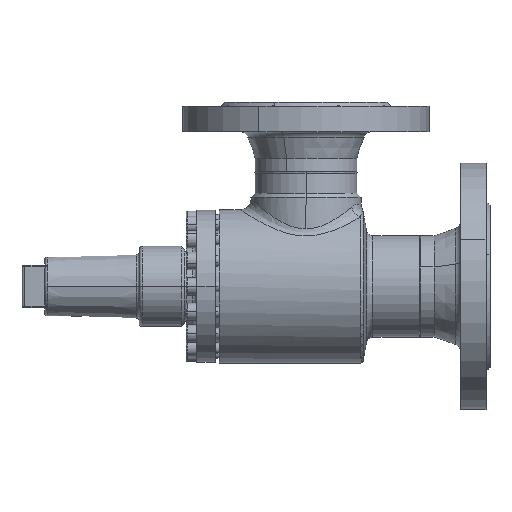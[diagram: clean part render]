
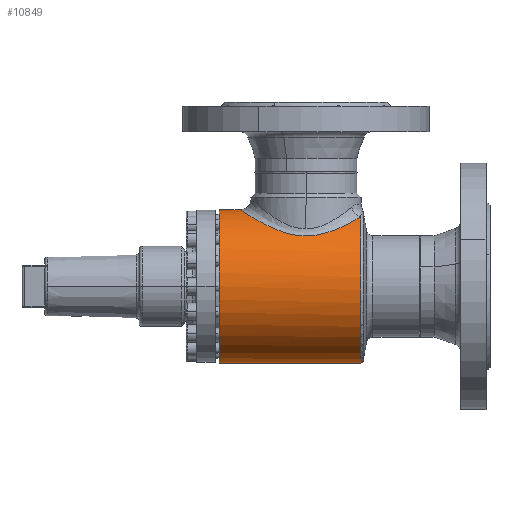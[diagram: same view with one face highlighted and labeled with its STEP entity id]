
A CAD part, left-side view. The second image highlights one B-rep face of the part: STEP entity #10849.
In plain terms, the highlighted cylindrical face has radius 57.5 mm (diameter 115 mm), a partial arc.
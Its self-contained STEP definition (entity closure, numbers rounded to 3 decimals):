
#16791 = ORIENTED_EDGE ( 'NONE', *, *, #874, .F. ) ;
#16900 = EDGE_CURVE ( 'NONE', #4653, #2881, #12067, .T. ) ;
#874 = EDGE_CURVE ( 'NONE', #14631, #4653, #17431, .T. ) ;
#17431 = LINE ( 'NONE', #17432, #17433 ) ;
#17432 = CARTESIAN_POINT ( 'NONE',  ( 0., -111., -57.5 ) ) ;
#17433 = VECTOR ( 'NONE', #17434, 1000. ) ;
#17434 = DIRECTION ( 'NONE',  ( 0., 1., 0. ) ) ;
#17473 = B_SPLINE_CURVE_WITH_KNOTS ( 'NONE', 3,
 ( #17474, #17475, #17476, #17477, #17478, #17479, #17480, #17481, #17482, #17483, #17484, #17485, #17486, #17487, #17488, #17489, #17490, #17491, #17493, #17494, #17495, #17496, #17497, #17498, #17499, #17500, #17501, #17502, #17503, #17504, #17505, #17506, #17507, #17508, #17511, #17512, #17513, #17514, #17515, #17516, #17517, #17518, #17519, #17520, #17521, #17522, #17523, #17524, #17525, #17526, #17529, #17530, #17531, #17532, #17533, #17534, #17535, #17536, #17537, #17538, #17539, #17540 ),
 .UNSPECIFIED., .F., .F.,
 ( 4, 2, 2, 2, 2, 2, 2, 2, 2, 2, 2, 2, 2, 2, 2, 2, 2, 2, 2, 2, 2, 2, 2, 2, 2, 2, 2, 2, 2, 2, 4 ),
 ( 0., 0.008, 0.016, 0.017, 0.019, 0.023, 0.031, 0.035, 0.039, 0.047, 0.049, 0.05, 0.054, 0.058, 0.06, 0.062, 0.07, 0.074, 0.078, 0.085, 0.089, 0.091, 0.093, 0.101, 0.105, 0.107, 0.109, 0.116, 0.118, 0.12, 0.124 ),
 .UNSPECIFIED. ) ;
#17474 = CARTESIAN_POINT ( 'NONE',  ( -24.174, -105.892, 52.171 ) ) ;
#17475 = CARTESIAN_POINT ( 'NONE',  ( -26.132, -104.39, 51.264 ) ) ;
#17476 = CARTESIAN_POINT ( 'NONE',  ( -27.915, -102.76, 50.305 ) ) ;
#17477 = CARTESIAN_POINT ( 'NONE',  ( -31.195, -99.268, 48.34 ) ) ;
#17478 = CARTESIAN_POINT ( 'NONE',  ( -32.691, -97.405, 47.333 ) ) ;
#17479 = CARTESIAN_POINT ( 'NONE',  ( -34.397, -94.927, 46.079 ) ) ;
#17480 = CARTESIAN_POINT ( 'NONE',  ( -34.73, -94.424, 45.829 ) ) ;
#17481 = CARTESIAN_POINT ( 'NONE',  ( -35.379, -93.402, 45.329 ) ) ;
#17482 = CARTESIAN_POINT ( 'NONE',  ( -35.695, -92.884, 45.08 ) ) ;
#17483 = CARTESIAN_POINT ( 'NONE',  ( -36.613, -91.317, 44.344 ) ) ;
#17484 = CARTESIAN_POINT ( 'NONE',  ( -37.186, -90.253, 43.863 ) ) ;
#17485 = CARTESIAN_POINT ( 'NONE',  ( -38.793, -86.998, 42.466 ) ) ;
#17486 = CARTESIAN_POINT ( 'NONE',  ( -39.716, -84.747, 41.594 ) ) ;
#17487 = CARTESIAN_POINT ( 'NONE',  ( -40.882, -81.225, 40.437 ) ) ;
#17488 = CARTESIAN_POINT ( 'NONE',  ( -41.234, -80.027, 40.077 ) ) ;
#17489 = CARTESIAN_POINT ( 'NONE',  ( -41.862, -77.576, 39.421 ) ) ;
#17490 = CARTESIAN_POINT ( 'NONE',  ( -42.138, -76.319, 39.125 ) ) ;
#17491 = CARTESIAN_POINT ( 'NONE',  ( -42.831, -72.529, 38.37 ) ) ;
#17493 = CARTESIAN_POINT ( 'NONE',  ( -43.12, -69.961, 38.038 ) ) ;
#17494 = CARTESIAN_POINT ( 'NONE',  ( -43.257, -66.692, 37.883 ) ) ;
#17495 = CARTESIAN_POINT ( 'NONE',  ( -43.273, -66.034, 37.864 ) ) ;
#17496 = CARTESIAN_POINT ( 'NONE',  ( -43.282, -64.718, 37.854 ) ) ;
#17497 = CARTESIAN_POINT ( 'NONE',  ( -43.275, -64.063, 37.862 ) ) ;
#17498 = CARTESIAN_POINT ( 'NONE',  ( -43.219, -62.103, 37.926 ) ) ;
#17499 = CARTESIAN_POINT ( 'NONE',  ( -43.137, -60.806, 38.02 ) ) ;
#17500 = CARTESIAN_POINT ( 'NONE',  ( -42.884, -58.229, 38.305 ) ) ;
#17501 = CARTESIAN_POINT ( 'NONE',  ( -42.713, -56.95, 38.496 ) ) ;
#17502 = CARTESIAN_POINT ( 'NONE',  ( -42.391, -55.043, 38.85 ) ) ;
#17503 = CARTESIAN_POINT ( 'NONE',  ( -42.272, -54.408, 38.979 ) ) ;
#17504 = CARTESIAN_POINT ( 'NONE',  ( -42.014, -53.15, 39.257 ) ) ;
#17505 = CARTESIAN_POINT ( 'NONE',  ( -41.875, -52.528, 39.406 ) ) ;
#17506 = CARTESIAN_POINT ( 'NONE',  ( -41.13, -49.446, 40.191 ) ) ;
#17507 = CARTESIAN_POINT ( 'NONE',  ( -40.378, -47.077, 40.957 ) ) ;
#17508 = CARTESIAN_POINT ( 'NONE',  ( -39.022, -43.642, 42.237 ) ) ;
#17511 = CARTESIAN_POINT ( 'NONE',  ( -38.532, -42.517, 42.685 ) ) ;
#17512 = CARTESIAN_POINT ( 'NONE',  ( -37.473, -40.304, 43.618 ) ) ;
#17513 = CARTESIAN_POINT ( 'NONE',  ( -36.908, -39.223, 44.098 ) ) ;
#17514 = CARTESIAN_POINT ( 'NONE',  ( -35.115, -36.073, 45.559 ) ) ;
#17515 = CARTESIAN_POINT ( 'NONE',  ( -33.785, -34.085, 46.562 ) ) ;
#17516 = CARTESIAN_POINT ( 'NONE',  ( -31.574, -31.259, 48.064 ) ) ;
#17517 = CARTESIAN_POINT ( 'NONE',  ( -30.801, -30.343, 48.564 ) ) ;
#17518 = CARTESIAN_POINT ( 'NONE',  ( -29.582, -29.009, 49.309 ) ) ;
#17519 = CARTESIAN_POINT ( 'NONE',  ( -29.166, -28.57, 49.557 ) ) ;
#17520 = CARTESIAN_POINT ( 'NONE',  ( -28.313, -27.708, 50.049 ) ) ;
#17521 = CARTESIAN_POINT ( 'NONE',  ( -27.875, -27.282, 50.294 ) ) ;
#17522 = CARTESIAN_POINT ( 'NONE',  ( -25.646, -25.201, 51.504 ) ) ;
#17523 = CARTESIAN_POINT ( 'NONE',  ( -23.737, -23.688, 52.419 ) ) ;
#17524 = CARTESIAN_POINT ( 'NONE',  ( -20.66, -21.659, 53.671 ) ) ;
#17525 = CARTESIAN_POINT ( 'NONE',  ( -19.599, -21.023, 54.069 ) ) ;
#17526 = CARTESIAN_POINT ( 'NONE',  ( -17.948, -20.134, 54.63 ) ) ;
#17529 = CARTESIAN_POINT ( 'NONE',  ( -17.388, -19.848, 54.811 ) ) ;
#17530 = CARTESIAN_POINT ( 'NONE',  ( -16.247, -19.3, 55.16 ) ) ;
#17531 = CARTESIAN_POINT ( 'NONE',  ( -15.665, -19.037, 55.328 ) ) ;
#17532 = CARTESIAN_POINT ( 'NONE',  ( -12.734, -17.796, 56.125 ) ) ;
#17533 = CARTESIAN_POINT ( 'NONE',  ( -10.302, -17.028, 56.627 ) ) ;
#17534 = CARTESIAN_POINT ( 'NONE',  ( -7.142, -16.371, 57.058 ) ) ;
#17535 = CARTESIAN_POINT ( 'NONE',  ( -6.505, -16.254, 57.135 ) ) ;
#17536 = CARTESIAN_POINT ( 'NONE',  ( -5.216, -16.054, 57.267 ) ) ;
#17537 = CARTESIAN_POINT ( 'NONE',  ( -4.563, -15.969, 57.322 ) ) ;
#17538 = CARTESIAN_POINT ( 'NONE',  ( -2.602, -15.766, 57.456 ) ) ;
#17539 = CARTESIAN_POINT ( 'NONE',  ( -1.298, -15.7, 57.5 ) ) ;
#17540 = CARTESIAN_POINT ( 'NONE',  ( 0., -15.7, 57.5 ) ) ;
#1204 = EDGE_CURVE ( 'NONE', #2862, #2881, #17636, .T. ) ;
#17636 = LINE ( 'NONE', #17637, #17638 ) ;
#17637 = CARTESIAN_POINT ( 'NONE',  ( 0., -111., 57.5 ) ) ;
#17638 = VECTOR ( 'NONE', #17639, 1000. ) ;
#17639 = DIRECTION ( 'NONE',  ( 0., 1., 0. ) ) ;
#17729 = FACE_OUTER_BOUND ( 'NONE', #10608, .T. ) ;
#17730 = CYLINDRICAL_SURFACE ( 'NONE', #17731, 57.5 ) ;
#17731 = AXIS2_PLACEMENT_3D ( 'NONE', #17732, #17733, #17734 ) ;
#17732 = CARTESIAN_POINT ( 'NONE',  ( 0., -111., 0. ) ) ;
#17733 = DIRECTION ( 'NONE',  ( 0., 1., 0. ) ) ;
#17734 = DIRECTION ( 'NONE',  ( 0., 0., 1. ) ) ;
#2862 = VERTEX_POINT ( 'NONE', #8608 ) ;
#2881 = VERTEX_POINT ( 'NONE', #8615 ) ;
#4653 = VERTEX_POINT ( 'NONE', #10107 ) ;
#4783 = ORIENTED_EDGE ( 'NONE', *, *, #1204, .T. ) ;
#6928 = ORIENTED_EDGE ( 'NONE', *, *, #16900, .F. ) ;
#8608 = CARTESIAN_POINT ( 'NONE',  ( 0., -15.7, 57.5 ) ) ;
#8615 = CARTESIAN_POINT ( 'NONE',  ( 0., 0., 57.5 ) ) ;
#10107 = CARTESIAN_POINT ( 'NONE',  ( 0., 0., -57.5 ) ) ;
#10393 = CARTESIAN_POINT ( 'NONE',  ( 0., -105.892, -57.5 ) ) ;
#10461 = EDGE_CURVE ( 'NONE', #15668, #2862, #17473, .T. ) ;
#10608 = EDGE_LOOP ( 'NONE', ( #16791, #16270, #10799, #4783, #6928 ) ) ;
#10799 = ORIENTED_EDGE ( 'NONE', *, *, #10461, .T. ) ;
#10849 = ADVANCED_FACE ( 'NONE', ( #17729 ), #17730, .T. ) ;
#10985 = CARTESIAN_POINT ( 'NONE',  ( -24.174, -105.892, 52.171 ) ) ;
#11169 = CIRCLE ( 'NONE', #11170, 57.5 ) ;
#11170 = AXIS2_PLACEMENT_3D ( 'NONE', #11171, #11172, #11173 ) ;
#11171 = CARTESIAN_POINT ( 'NONE',  ( 0., -105.892, 0. ) ) ;
#11172 = DIRECTION ( 'NONE',  ( 0., 1., 0. ) ) ;
#11173 = DIRECTION ( 'NONE',  ( 0., 0., -1. ) ) ;
#12067 = CIRCLE ( 'NONE', #12068, 57.5 ) ;
#12068 = AXIS2_PLACEMENT_3D ( 'NONE', #12069, #12070, #12071 ) ;
#12069 = CARTESIAN_POINT ( 'NONE',  ( 0., 0., 0. ) ) ;
#12070 = DIRECTION ( 'NONE',  ( 0., 1., 0. ) ) ;
#12071 = DIRECTION ( 'NONE',  ( 0., 0., 1. ) ) ;
#14631 = VERTEX_POINT ( 'NONE', #10393 ) ;
#15668 = VERTEX_POINT ( 'NONE', #10985 ) ;
#15893 = EDGE_CURVE ( 'NONE', #14631, #15668, #11169, .T. ) ;
#16270 = ORIENTED_EDGE ( 'NONE', *, *, #15893, .T. ) ;
